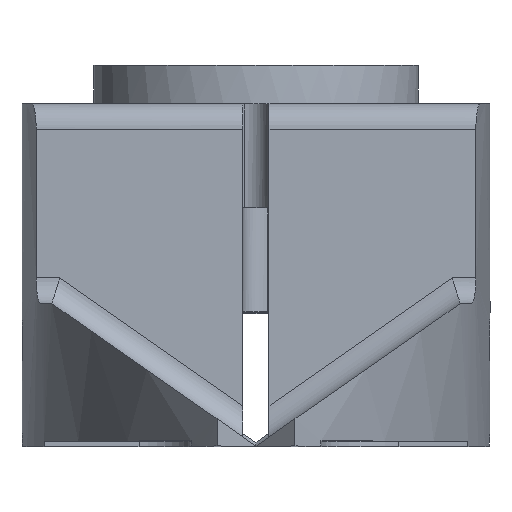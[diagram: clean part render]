
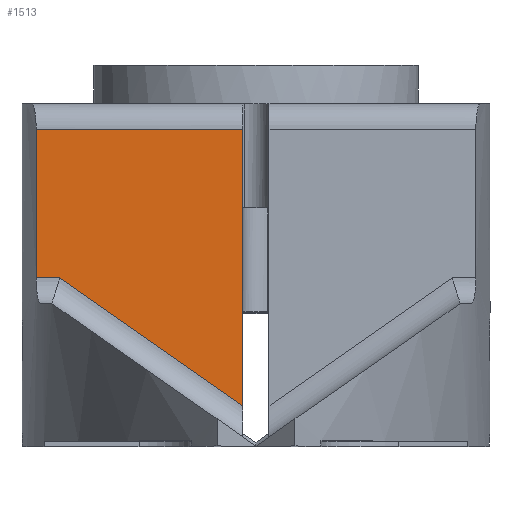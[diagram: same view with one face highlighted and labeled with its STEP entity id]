
A CAD part, top view. The second image highlights one B-rep face of the part: STEP entity #1513.
In plain terms, the highlighted planar face has unit normal (0, 0, 1).
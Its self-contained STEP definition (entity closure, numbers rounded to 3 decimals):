
#102=PLANE('',#1622);
#171=FACE_OUTER_BOUND('',#257,.T.);
#257=EDGE_LOOP('',(#1058,#1059,#1060,#1061,#1062));
#344=LINE('',#2247,#472);
#362=LINE('',#2368,#490);
#365=LINE('',#2388,#493);
#366=LINE('',#2390,#494);
#367=LINE('',#2391,#495);
#472=VECTOR('',#1772,10.);
#490=VECTOR('',#1840,10.);
#493=VECTOR('',#1849,10.);
#494=VECTOR('',#1852,10.);
#495=VECTOR('',#1853,10.);
#619=VERTEX_POINT('',#2244);
#620=VERTEX_POINT('',#2246);
#654=VERTEX_POINT('',#2356);
#655=VERTEX_POINT('',#2367);
#658=VERTEX_POINT('',#2384);
#771=EDGE_CURVE('',#619,#620,#344,.T.);
#811=EDGE_CURVE('',#654,#655,#362,.T.);
#817=EDGE_CURVE('',#655,#658,#365,.T.);
#818=EDGE_CURVE('',#620,#654,#366,.T.);
#819=EDGE_CURVE('',#658,#619,#367,.T.);
#1058=ORIENTED_EDGE('',*,*,#817,.F.);
#1059=ORIENTED_EDGE('',*,*,#811,.F.);
#1060=ORIENTED_EDGE('',*,*,#818,.F.);
#1061=ORIENTED_EDGE('',*,*,#771,.F.);
#1062=ORIENTED_EDGE('',*,*,#819,.F.);
#1513=ADVANCED_FACE('',(#171),#102,.F.);
#1622=AXIS2_PLACEMENT_3D('',#2389,#1850,#1851);
#1772=DIRECTION('',(-0.819,0.574,0.));
#1840=DIRECTION('',(0.,1.,0.));
#1849=DIRECTION('',(1.,0.,0.));
#1850=DIRECTION('center_axis',(0.,0.,-1.));
#1851=DIRECTION('ref_axis',(1.,0.,0.));
#1852=DIRECTION('',(-1.,0.,0.));
#1853=DIRECTION('',(0.,-1.,0.));
#2244=CARTESIAN_POINT('',(-0.5,-3.629,19.5));
#2246=CARTESIAN_POINT('',(-7.54,1.3,19.5));
#2247=CARTESIAN_POINT('',(-7.818,1.495,19.5));
#2356=CARTESIAN_POINT('',(-8.455,1.3,19.5));
#2367=CARTESIAN_POINT('',(-8.455,7.,19.5));
#2368=CARTESIAN_POINT('',(-8.455,8.,19.5));
#2384=CARTESIAN_POINT('',(-0.5,7.,19.5));
#2388=CARTESIAN_POINT('',(-7.885,7.,19.5));
#2389=CARTESIAN_POINT('Origin',(-15.769,8.,19.5));
#2390=CARTESIAN_POINT('',(-11.827,1.3,19.5));
#2391=CARTESIAN_POINT('',(-0.5,4.,19.5));
